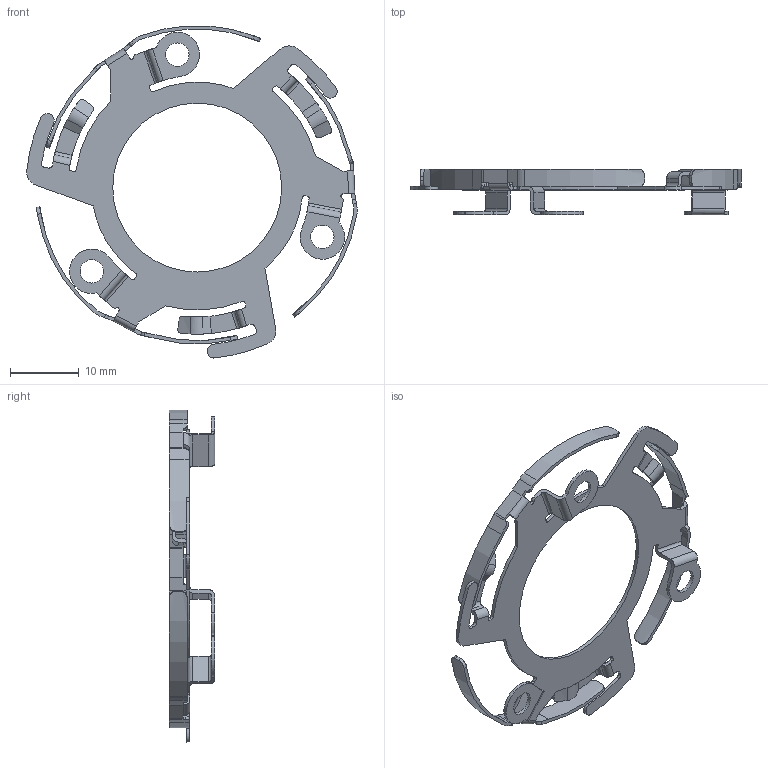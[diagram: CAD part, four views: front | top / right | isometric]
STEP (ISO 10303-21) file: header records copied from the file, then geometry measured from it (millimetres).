
FILE_DESCRIPTION((''),'2;1');
FILE_NAME('XSA-244','2014-09-24T',('brian.kuhl'),(''),'PRO/ENGINEER BY PARAMETRIC TECHNOLOGY CORPORATION, 2013050','PRO/ENGINEER BY PARAMETRIC TECHNOLOGY CORPORATION, 2013050','');
FILE_SCHEMA(('CONFIG_CONTROL_DESIGN'));
Length unit declared in the file: millimetre
Products named in the file (1): XSA-244
Bounding box: 47.94 x 6.6 x 48.15 mm (x, y, z)
Volume: 577.8 mm3; surface area: 2665.6 mm2
Topology: 1 solids, 1 shells, 292 faces, 825 edges, 535 vertices
Faces by surface type: cylinder 143, plane 101, bspline 48
Entity records: 11365 total; most frequent: CARTESIAN_POINT 3926, ORIENTED_EDGE 1650, DIRECTION 1431, EDGE_CURVE 825, VERTEX_POINT 535, AXIS2_PLACEMENT_3D 488, VECTOR 455, LINE 455
